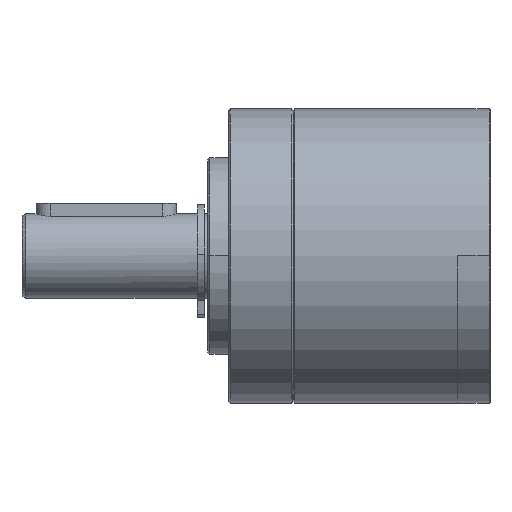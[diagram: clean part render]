
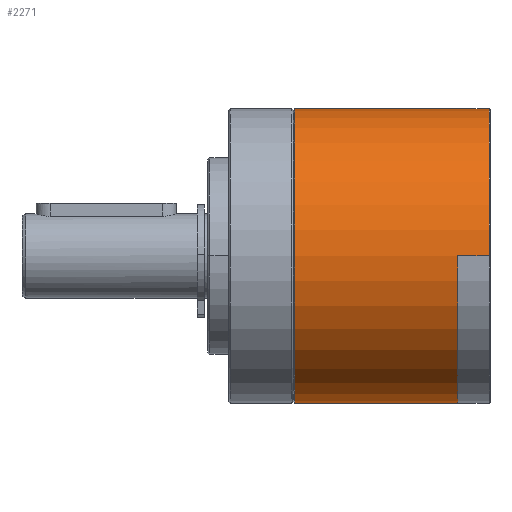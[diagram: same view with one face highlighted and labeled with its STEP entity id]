
A CAD part, top view. The second image highlights one B-rep face of the part: STEP entity #2271.
In plain terms, the highlighted cylindrical face has radius 21 mm (diameter 42 mm), a partial arc.
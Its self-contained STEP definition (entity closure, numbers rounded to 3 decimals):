
#2 = DIRECTION ( 'NONE',  ( -1., 0., 0. ) ) ;
#25 = CARTESIAN_POINT ( 'NONE',  ( 32.65, -21., 0. ) ) ;
#29 = CIRCLE ( 'NONE', #764, 21. ) ;
#81 = ORIENTED_EDGE ( 'NONE', *, *, #3592, .F. ) ;
#338 = CIRCLE ( 'NONE', #2241, 21. ) ;
#345 = AXIS2_PLACEMENT_3D ( 'NONE', #1615, #3406, #3111 ) ;
#396 = DIRECTION ( 'NONE',  ( 0., -1., 0. ) ) ;
#483 = EDGE_CURVE ( 'NONE', #1732, #1531, #2880, .T. ) ;
#599 = CARTESIAN_POINT ( 'NONE',  ( 37.133, 0., -21. ) ) ;
#601 = VECTOR ( 'NONE', #775, 1000. ) ;
#702 = ORIENTED_EDGE ( 'NONE', *, *, #3842, .T. ) ;
#764 = AXIS2_PLACEMENT_3D ( 'NONE', #2277, #1614, #396 ) ;
#775 = DIRECTION ( 'NONE',  ( 1., 0., 0. ) ) ;
#810 = ORIENTED_EDGE ( 'NONE', *, *, #3379, .F. ) ;
#839 = ORIENTED_EDGE ( 'NONE', *, *, #3735, .T. ) ;
#871 = CYLINDRICAL_SURFACE ( 'NONE', #3067, 21. ) ;
#925 = VECTOR ( 'NONE', #2777, 1000. ) ;
#976 = ORIENTED_EDGE ( 'NONE', *, *, #3990, .F. ) ;
#977 = CARTESIAN_POINT ( 'NONE',  ( 9.2, 0., 0. ) ) ;
#1089 = CARTESIAN_POINT ( 'NONE',  ( 9.4, -21., 0. ) ) ;
#1111 = DIRECTION ( 'NONE',  ( -1., 0., 0. ) ) ;
#1137 = CARTESIAN_POINT ( 'NONE',  ( 32.65, 0., 0. ) ) ;
#1151 = ORIENTED_EDGE ( 'NONE', *, *, #483, .T. ) ;
#1170 = VERTEX_POINT ( 'NONE', #3463 ) ;
#1193 = CARTESIAN_POINT ( 'NONE',  ( 9.4, -21., 0. ) ) ;
#1406 = DIRECTION ( 'NONE',  ( 1., 0., 0. ) ) ;
#1499 = CARTESIAN_POINT ( 'NONE',  ( 32.65, 0., 21. ) ) ;
#1531 = VERTEX_POINT ( 'NONE', #3367 ) ;
#1560 = LINE ( 'NONE', #2798, #2802 ) ;
#1611 = VERTEX_POINT ( 'NONE', #25 ) ;
#1614 = DIRECTION ( 'NONE',  ( -1., 0., 0. ) ) ;
#1615 = CARTESIAN_POINT ( 'NONE',  ( 37.133, 0., 0. ) ) ;
#1709 = CARTESIAN_POINT ( 'NONE',  ( 9.4, 21., 0. ) ) ;
#1717 = EDGE_CURVE ( 'NONE', #2620, #1611, #2249, .T. ) ;
#1730 = CARTESIAN_POINT ( 'NONE',  ( 32.65, 0., 0. ) ) ;
#1732 = VERTEX_POINT ( 'NONE', #3515 ) ;
#1792 = VERTEX_POINT ( 'NONE', #1499 ) ;
#1882 = VERTEX_POINT ( 'NONE', #3512 ) ;
#1946 = EDGE_CURVE ( 'NONE', #2620, #1170, #29, .T. ) ;
#2241 = AXIS2_PLACEMENT_3D ( 'NONE', #1137, #3378, #4000 ) ;
#2249 = LINE ( 'NONE', #1089, #3945 ) ;
#2271 = ADVANCED_FACE ( 'NONE', ( #3293 ), #871, .T. ) ;
#2277 = CARTESIAN_POINT ( 'NONE',  ( 9.4, 0., 0. ) ) ;
#2598 = ORIENTED_EDGE ( 'NONE', *, *, #1717, .T. ) ;
#2620 = VERTEX_POINT ( 'NONE', #1193 ) ;
#2659 = DIRECTION ( 'NONE',  ( 0., 1., 0. ) ) ;
#2777 = DIRECTION ( 'NONE',  ( -1., 0., 0. ) ) ;
#2793 = DIRECTION ( 'NONE',  ( 0., -1., 0. ) ) ;
#2798 = CARTESIAN_POINT ( 'NONE',  ( 37.133, 0., 21. ) ) ;
#2802 = VECTOR ( 'NONE', #2, 1000. ) ;
#2838 = CARTESIAN_POINT ( 'NONE',  ( 32.65, 0., -21. ) ) ;
#2880 = CIRCLE ( 'NONE', #345, 21. ) ;
#2926 = CIRCLE ( 'NONE', #3787, 21. ) ;
#3067 = AXIS2_PLACEMENT_3D ( 'NONE', #977, #3122, #2793 ) ;
#3111 = DIRECTION ( 'NONE',  ( 0., 0., 1. ) ) ;
#3122 = DIRECTION ( 'NONE',  ( 1., 0., 0. ) ) ;
#3269 = EDGE_LOOP ( 'NONE', ( #702, #976, #810, #3702, #2598, #839, #81, #1151 ) ) ;
#3293 = FACE_OUTER_BOUND ( 'NONE', #3269, .T. ) ;
#3307 = VERTEX_POINT ( 'NONE', #2838 ) ;
#3367 = CARTESIAN_POINT ( 'NONE',  ( 37.133, 0., -21. ) ) ;
#3378 = DIRECTION ( 'NONE',  ( -1., 0., 0. ) ) ;
#3379 = EDGE_CURVE ( 'NONE', #1170, #1882, #3617, .T. ) ;
#3395 = LINE ( 'NONE', #599, #925 ) ;
#3406 = DIRECTION ( 'NONE',  ( -1., 0., 0. ) ) ;
#3463 = CARTESIAN_POINT ( 'NONE',  ( 9.4, 21., 0. ) ) ;
#3512 = CARTESIAN_POINT ( 'NONE',  ( 32.65, 21., 0. ) ) ;
#3515 = CARTESIAN_POINT ( 'NONE',  ( 37.133, 0., 21. ) ) ;
#3592 = EDGE_CURVE ( 'NONE', #1732, #1792, #1560, .T. ) ;
#3617 = LINE ( 'NONE', #1709, #601 ) ;
#3702 = ORIENTED_EDGE ( 'NONE', *, *, #1946, .F. ) ;
#3735 = EDGE_CURVE ( 'NONE', #1611, #1792, #338, .T. ) ;
#3787 = AXIS2_PLACEMENT_3D ( 'NONE', #1730, #1111, #2659 ) ;
#3842 = EDGE_CURVE ( 'NONE', #1531, #3307, #3395, .T. ) ;
#3945 = VECTOR ( 'NONE', #1406, 1000. ) ;
#3990 = EDGE_CURVE ( 'NONE', #1882, #3307, #2926, .T. ) ;
#4000 = DIRECTION ( 'NONE',  ( 0., -1., 0. ) ) ;
